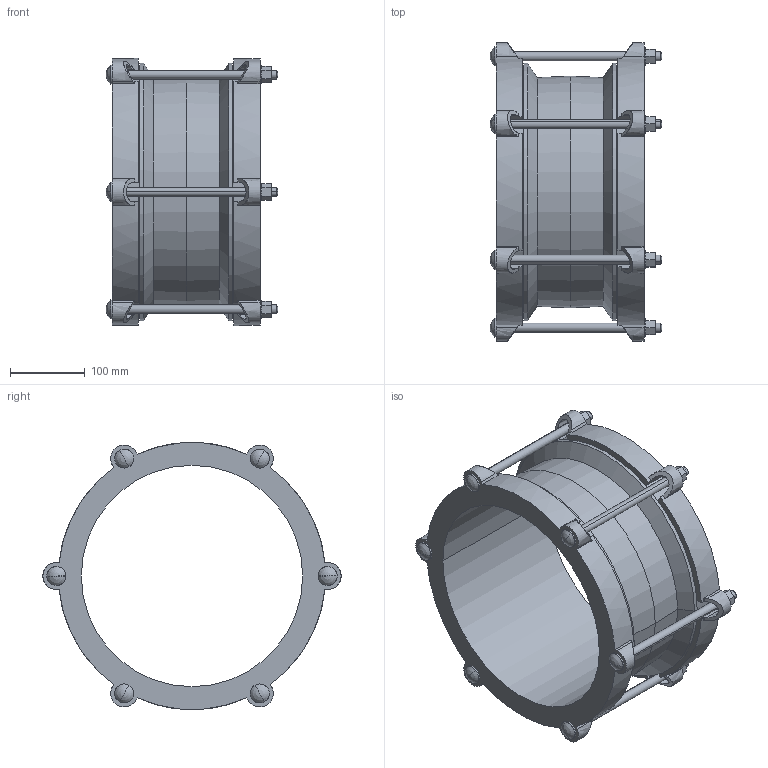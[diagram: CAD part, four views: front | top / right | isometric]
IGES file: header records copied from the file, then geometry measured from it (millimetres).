
Start section:  PTC IGES file: MAXIFIT_266-295.igs
Global section: file name: MAXIFIT_266-295.igs; native system: Creo Parametric by PTC Inc.; preprocessor: 2016130; author: MReader; organization: Unknown; date: 20180907.103726; units: millimetre
Bounding box: 230.33 x 399.5 x 358 mm (x, y, z)
Surface area: 599236.8 mm2 (no closed solid volume)
Topology: 0 solids, 0 shells, 286 faces, 1528 edges, 1504 vertices
Faces by surface type: bspline 148, revolution 138
